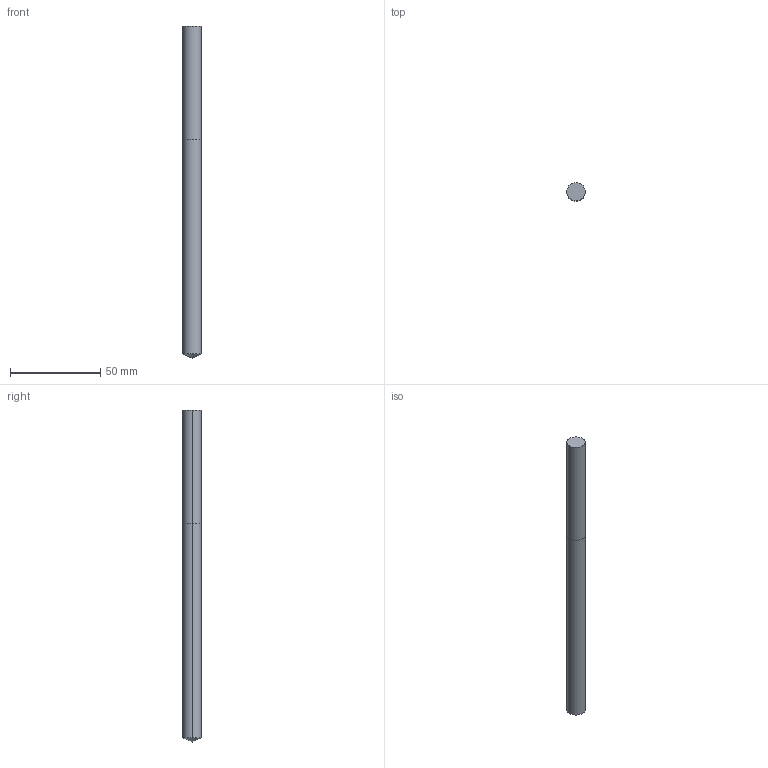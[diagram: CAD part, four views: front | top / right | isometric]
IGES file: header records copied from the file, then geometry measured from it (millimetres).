
Start section: 3D InterOp IGES (v. 2020 1.0.1), Spatial Corp. Copyright (c) 1999-2017.
Global section: file name: WZB30214_10.2.igs; native system: Spatial Corp.; preprocessor: 3D InterOp GENERIC/IGES 3.0; author: Noname; organization: Noname; date: 20201007.091712; units: metre
Bounding box: 10.2 x 10.2 x 184 mm (x, y, z)
Surface area: 5992.4 mm2 (no closed solid volume)
Topology: 0 solids, 0 shells, 11 faces, 42 edges, 40 vertices
Faces by surface type: revolution 8, extrusion 3
